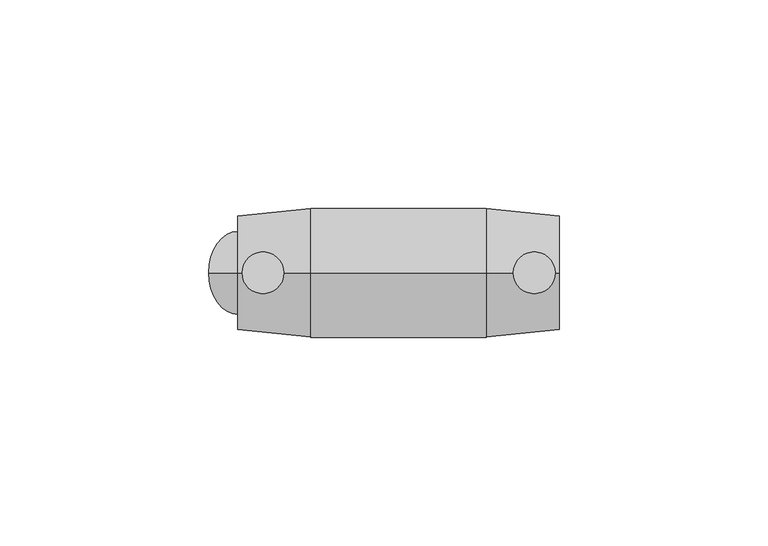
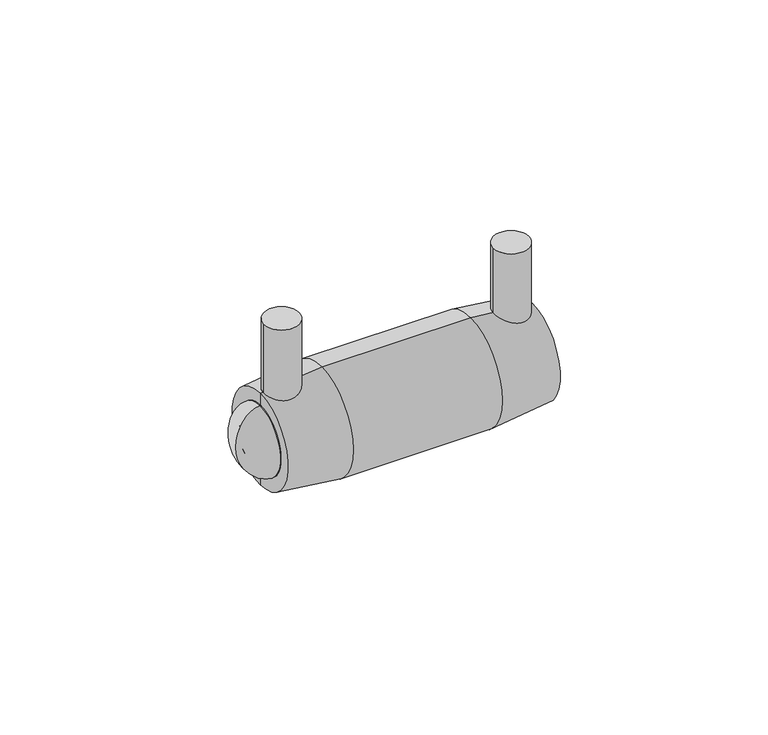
"""IFC4 building model written with IfcOpenShell, lengths in millimetres: pipe fitting geometry, Plumbing_Pipe-Fittings_Plasson_End-Cap_491204 : Plumbing_Pipe-Fittings_Plasson_End-Cap_491204."""

from ifc_helpers import new_model, si_unit, point, frame, frame_2d, origin, place, context, project, spatial, polyline, circle_curve, ellipse_curve, trimmed, segment, composite_curve, outline, extrude, source, transform, mapped, element, save
from ifc_brep_helpers import plane_surface, cylinder_surface, revolved_surface, advanced_brep


def pipe_fitting_37475e8d(model_context):
    return source(origin(), model_context, "Body", "SolidModel", [
        advanced_brep(
        [(-38.5, 0.0, -7.25), (-38.5, 0.0, 7.25), (-42.75, 0.0, 0.0), (-1.5, 0.0, -7.25), (-1.5, 0.0, 7.25), (-1.5, 0.0, -10.0), (-1.5, 0.0, 10.0), (-38.5, 0.0, -10.0), (-38.5, 0.0, 10.0), (-45.5, 0.0, 0.0)],
        [
            (0, 1, circle_curve(frame((-38.5, 0.0, 0.0), z_axis=(1.0, 0.0, 0.0), x_axis=(0.0, 0.0, 1.0)), 7.25)),
            (1, 2, ellipse_curve(frame((-38.5, 0.0, 0.0), z_axis=(0.0, -1.0, 0.0), x_axis=(0.0, 0.0, 1.0)), 7.25, 4.25)),
            (2, 0, ellipse_curve(frame((-38.5, 0.0, 0.0), z_axis=(0.0, -1.0, 0.0), x_axis=(0.0, 0.0, -1.0)), 7.25, 4.25)),
            (1, 0, circle_curve(frame((-38.5, 0.0, 0.0), z_axis=(1.0, 0.0, 0.0), x_axis=(0.0, 0.0, 1.0)), 7.25)),
            (3, 4, circle_curve(frame((-1.5, 0.0, 0.0), z_axis=(1.0, 0.0, 0.0), x_axis=(0.0, 0.0, 1.0)), 7.25)),
            (4, 1),
            (0, 3),
            (4, 3, circle_curve(frame((-1.5, 0.0, 0.0), z_axis=(1.0, 0.0, 0.0), x_axis=(0.0, 0.0, 1.0)), 7.25)),
            (5, 6, circle_curve(frame((-1.5, 0.0, 0.0), z_axis=(1.0, 0.0, 0.0), x_axis=(0.0, 0.0, 1.0)), 10.0)),
            (6, 4),
            (3, 5),
            (6, 5, circle_curve(frame((-1.5, 0.0, 0.0), z_axis=(1.0, 0.0, 0.0), x_axis=(0.0, 0.0, 1.0)), 10.0)),
            (7, 8, circle_curve(frame((-38.5, 0.0, 0.0), z_axis=(1.0, 0.0, 0.0), x_axis=(0.0, 0.0, 1.0)), 10.0)),
            (8, 6),
            (5, 7),
            (8, 7, circle_curve(frame((-38.5, 0.0, 0.0), z_axis=(1.0, 0.0, 0.0), x_axis=(0.0, 0.0, 1.0)), 10.0)),
            (9, 8, ellipse_curve(frame((-38.5, 0.0, 0.0), z_axis=(0.0, 1.0, 0.0), x_axis=(0.0, 0.0, 1.0)), 10.0, 7.0)),
            (7, 9, ellipse_curve(frame((-38.5, 0.0, 0.0), z_axis=(0.0, 1.0, 0.0), x_axis=(0.0, 0.0, -1.0)), 10.0, 7.0)),
        ],
        [
            revolved_surface(trimmed(ellipse_curve(frame((-38.5, 0.0, 0.0), z_axis=(0.0, 1.0, 0.0), x_axis=(0.0, 0.0, 1.0)), 7.25, 4.25), [point((-42.75, 0.0, 0.0))], [point((-38.5, 0.0, 7.25))], True, "CARTESIAN"), (-48.6566461, 0.0, 0.0), (-1.0, 0.0, 0.0)),
            revolved_surface(polyline([(-38.5, 0.0, 7.25), (-1.5, 0.0, 7.25)]), (-48.6566461, 0.0, 0.0), (-1.0, 0.0, 0.0)),
            plane_surface(frame((-1.5, 0.0, 0.0), z_axis=(1.0, 0.0, 0.0), x_axis=(0.0, 0.0, 1.0))),
            cylinder_surface(frame((-48.6566461, 0.0, 0.0), z_axis=(-1.0, 0.0, 0.0), x_axis=(0.0, 0.0, 1.0)), 10.0),
            revolved_surface(trimmed(ellipse_curve(frame((-38.5, 0.0, 0.0), z_axis=(0.0, -1.0, 0.0), x_axis=(0.0, 0.0, 1.0)), 10.0, 7.0), [point((-38.5, 0.0, 10.0))], [point((-45.5, 0.0, 0.0))], True, "CARTESIAN"), (-48.6566461, 0.0, 0.0), (-1.0, 0.0, 0.0)),
        ],
        [
            (0, [[1, 2, 3]]),
            (0, [[4, -3, -2]]),
            (1, [[5, 6, -1, 7]]),
            (1, [[8, -7, -4, -6]]),
            (2, [[9, 10, -5, 11]]),
            (2, [[12, -11, -8, -10]]),
            (3, [[13, 14, -9, 15]]),
            (3, [[16, -15, -12, -14]]),
            (4, [[17, -13, 18]]),
            (4, [[-18, -16, -17]]),
        ],
    ),
        extrude(outline(composite_curve([segment(trimmed(circle_curve(frame_2d((-32.5, 0.0)), 5.0), [point((-37.5, 0.0))], [point((-27.5, 0.0))], False, "CARTESIAN"), True, "CONTINUOUS"), segment(trimmed(circle_curve(frame_2d((-32.5, 0.0)), 5.0), [point((-27.5, 0.0))], [point((-37.5, 0.0))], False, "CARTESIAN"), True, "CONTINUOUS")], self_intersect=False)), frame((0.0, 0.0, 12.75), z_axis=(0.0, 0.0, 1.0), x_axis=(1.0, 0.0, 0.0)), (0.0, 0.0, 1.0), 21.25),
        extrude(outline(composite_curve([segment(trimmed(circle_curve(frame_2d((32.5, 0.0)), 5.0), [point((27.5, 0.0))], [point((37.5, 0.0))], False, "CARTESIAN"), True, "CONTINUOUS"), segment(trimmed(circle_curve(frame_2d((32.5, 0.0)), 5.0), [point((37.5, 0.0))], [point((27.5, 0.0))], False, "CARTESIAN"), True, "CONTINUOUS")], self_intersect=False)), frame((0.0, 0.0, 12.75), z_axis=(0.0, 0.0, 1.0), x_axis=(1.0, 0.0, 0.0)), (0.0, 0.0, 1.0), 21.25),
        advanced_brep(
        [(-1.5, 0.0, -10.0), (-1.5, 0.0, 10.0), (-38.5, 0.0, 10.0), (-38.5, 0.0, -10.0), (38.5, 0.0, -13.6666667), (38.5, 0.0, 13.6666667), (38.5, 0.0, 10.0), (38.5, 0.0, -10.0), (-21.0, 0.0, -15.5), (-21.0, 0.0, 15.5), (21.0, 0.0, 15.5), (21.0, 0.0, -15.5), (-38.5, 0.0, 13.6666667), (-38.5, 0.0, -13.6666667), (-1.5, 0.0, -7.0), (-1.5, 0.0, 7.0), (1.5, 0.0, -7.0), (1.5, 0.0, 7.0), (1.5, 0.0, -10.0), (1.5, 0.0, 10.0)],
        [
            (0, 1, circle_curve(frame((-1.5, 0.0, 0.0), z_axis=(1.0, 0.0, 0.0), x_axis=(0.0, 0.0, 1.0)), 10.0)),
            (1, 2),
            (2, 3, circle_curve(frame((-38.5, 0.0, 0.0), z_axis=(-1.0, 0.0, 0.0), x_axis=(0.0, 0.0, 1.0)), 10.0)),
            (3, 0),
            (1, 0, circle_curve(frame((-1.5, 0.0, 0.0), z_axis=(1.0, 0.0, 0.0), x_axis=(0.0, 0.0, 1.0)), 10.0)),
            (3, 2, circle_curve(frame((-38.5, 0.0, 0.0), z_axis=(-1.0, 0.0, 0.0), x_axis=(0.0, 0.0, 1.0)), 10.0)),
            (4, 5, circle_curve(frame((38.5, 0.0, 0.0), z_axis=(1.0, 0.0, 0.0), x_axis=(0.0, 0.0, 1.0)), 13.6666667)),
            (5, 6),
            (6, 7, circle_curve(frame((38.5, 0.0, 0.0), z_axis=(-1.0, 0.0, 0.0), x_axis=(0.0, 0.0, 1.0)), 10.0)),
            (7, 4),
            (5, 4, circle_curve(frame((38.5, 0.0, 0.0), z_axis=(1.0, 0.0, 0.0), x_axis=(0.0, 0.0, 1.0)), 13.6666667)),
            (7, 6, circle_curve(frame((38.5, 0.0, 0.0), z_axis=(-1.0, 0.0, 0.0), x_axis=(0.0, 0.0, 1.0)), 10.0)),
            (8, 9, circle_curve(frame((-21.0, 0.0, 0.0), z_axis=(1.0, 0.0, 0.0), x_axis=(0.0, 0.0, 1.0)), 15.5)),
            (9, 10),
            (10, 11, circle_curve(frame((21.0, 0.0, 0.0), z_axis=(-1.0, 0.0, 0.0), x_axis=(0.0, 0.0, 1.0)), 15.5)),
            (11, 8),
            (9, 8, circle_curve(frame((-21.0, 0.0, 0.0), z_axis=(1.0, 0.0, 0.0), x_axis=(0.0, 0.0, 1.0)), 15.5)),
            (11, 10, circle_curve(frame((21.0, 0.0, 0.0), z_axis=(-1.0, 0.0, 0.0), x_axis=(0.0, 0.0, 1.0)), 15.5)),
            (2, 12),
            (12, 13, circle_curve(frame((-38.5, 0.0, 0.0), z_axis=(-1.0, 0.0, 0.0), x_axis=(0.0, 0.0, 1.0)), 13.6666667)),
            (13, 3),
            (13, 12, circle_curve(frame((-38.5, 0.0, 0.0), z_axis=(-1.0, 0.0, 0.0), x_axis=(0.0, 0.0, 1.0)), 13.6666667)),
            (10, 5),
            (4, 11),
            (12, 9),
            (8, 13),
            (14, 15, circle_curve(frame((-1.5, 0.0, 0.0), z_axis=(1.0, 0.0, 0.0), x_axis=(0.0, 0.0, 1.0)), 7.0)),
            (15, 1),
            (0, 14),
            (15, 14, circle_curve(frame((-1.5, 0.0, 0.0), z_axis=(1.0, 0.0, 0.0), x_axis=(0.0, 0.0, 1.0)), 7.0)),
            (16, 17, circle_curve(frame((1.5, 0.0, 0.0), z_axis=(1.0, 0.0, 0.0), x_axis=(0.0, 0.0, 1.0)), 7.0)),
            (17, 15),
            (14, 16),
            (17, 16, circle_curve(frame((1.5, 0.0, 0.0), z_axis=(1.0, 0.0, 0.0), x_axis=(0.0, 0.0, 1.0)), 7.0)),
            (18, 19, circle_curve(frame((1.5, 0.0, 0.0), z_axis=(1.0, 0.0, 0.0), x_axis=(0.0, 0.0, 1.0)), 10.0)),
            (19, 17),
            (16, 18),
            (19, 18, circle_curve(frame((1.5, 0.0, 0.0), z_axis=(1.0, 0.0, 0.0), x_axis=(0.0, 0.0, 1.0)), 10.0)),
            (6, 19),
            (18, 7),
        ],
        [
            revolved_surface(polyline([(-38.5, 0.0, 10.0), (-1.5, 0.0, 10.0)]), (-38.5, 0.0, 0.0), (-1.0, 0.0, 0.0)),
            plane_surface(frame((38.5, 0.0, 0.0), z_axis=(1.0, 0.0, 0.0), x_axis=(0.0, 0.0, 1.0))),
            cylinder_surface(frame((-38.5, 0.0, 0.0), z_axis=(-1.0, 0.0, 0.0), x_axis=(0.0, 0.0, 1.0)), 15.5),
            plane_surface(frame((-38.5, 0.0, 0.0), z_axis=(-1.0, 0.0, 0.0), x_axis=(0.0, 0.0, 1.0))),
            revolved_surface(polyline([(38.5, 0.0, 13.6666667), (21.0, 0.0, 15.5)]), (-38.5, 0.0, 0.0), (-1.0, 0.0, 0.0)),
            revolved_surface(polyline([(-21.0, 0.0, 15.5), (-38.5, 0.0, 13.6666667)]), (-38.5, 0.0, 0.0), (-1.0, 0.0, 0.0)),
            plane_surface(frame((-1.5, 0.0, 0.0), z_axis=(-1.0, 0.0, 0.0), x_axis=(0.0, 0.0, 1.0))),
            revolved_surface(polyline([(-1.5, 0.0, 7.0), (1.5, 0.0, 7.0)]), (-38.5, 0.0, 0.0), (-1.0, 0.0, 0.0)),
            plane_surface(frame((1.5, 0.0, 0.0), z_axis=(1.0, 0.0, 0.0), x_axis=(0.0, 0.0, 1.0))),
            revolved_surface(polyline([(1.5, 0.0, 10.0), (38.5, 0.0, 10.0)]), (-38.5, 0.0, 0.0), (-1.0, 0.0, 0.0)),
        ],
        [
            (0, [[1, 2, 3, 4]]),
            (0, [[5, -4, 6, -2]]),
            (1, [[7, 8, 9, 10]]),
            (1, [[11, -10, 12, -8]]),
            (2, [[13, 14, 15, 16]]),
            (2, [[17, -16, 18, -14]]),
            (3, [[-3, 19, 20, 21]]),
            (3, [[-6, -21, 22, -19]]),
            (4, [[-15, 23, -7, 24]]),
            (4, [[-18, -24, -11, -23]]),
            (5, [[-20, 25, -13, 26]]),
            (5, [[-22, -26, -17, -25]]),
            (6, [[27, 28, -1, 29]]),
            (6, [[30, -29, -5, -28]]),
            (7, [[31, 32, -27, 33]]),
            (7, [[34, -33, -30, -32]]),
            (8, [[35, 36, -31, 37]]),
            (8, [[38, -37, -34, -36]]),
            (9, [[-9, 39, -35, 40]]),
            (9, [[-12, -40, -38, -39]]),
        ],
    ),
    ])


if __name__ == "__main__":
    model = new_model("IFC4")
    model_context = context("Model", 3, world=origin())
    ifc_project = project(units=[si_unit("LENGTHUNIT", "METRE", prefix="MILLI")], contexts=[model_context])
    site = spatial("IfcSite", under=ifc_project)
    building = spatial("IfcBuilding", under=site)
    placement = place(None, origin())
    pipe_fitting_shape = pipe_fitting_37475e8d(model_context)
    element("IfcPipeFitting", 1, ObjectType="Plumbing_Pipe-Fittings_Plasson_End-Cap_491204 : Plumbing_Pipe-Fittings_Plasson_End-Cap_491204", at=placement, inside=building, context=model_context, shape_type="MappedRepresentation", body=[
        mapped(pipe_fitting_shape, transform((0.0, 0.0, 0.0), x_axis=(1.0, 0.0, 0.0), y_axis=(0.0, 1.0, 0.0), z_axis=(0.0, 0.0, 1.0))),
    ])
    save(model, "model.ifc")
